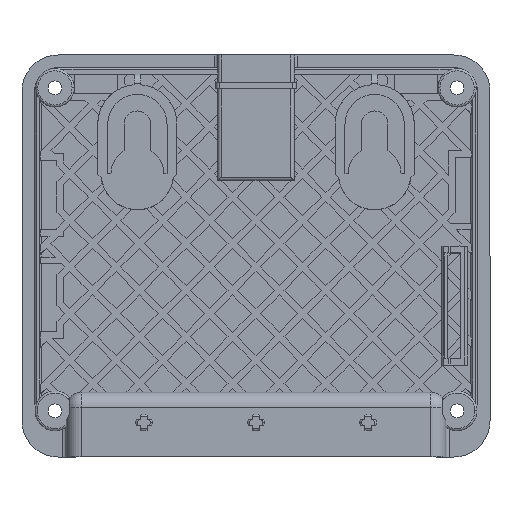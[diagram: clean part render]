
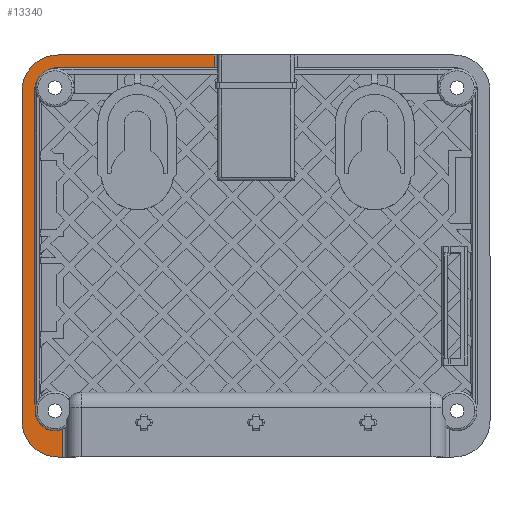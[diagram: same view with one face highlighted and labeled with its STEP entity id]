
A CAD part, top view. The second image highlights one B-rep face of the part: STEP entity #13340.
In plain terms, the highlighted planar face has unit normal (0, 0, 1).
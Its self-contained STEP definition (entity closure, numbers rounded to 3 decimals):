
#74 = ORIENTED_EDGE ( 'NONE', *, *, #11331, .T. ) ;
#1580 = VERTEX_POINT ( 'NONE', #7879 ) ;
#1633 = CARTESIAN_POINT ( 'NONE',  ( -33.328, -22.5, 1.8 ) ) ;
#1794 = CIRCLE ( 'NONE', #2919, 3. ) ;
#2195 = LINE ( 'NONE', #20244, #6318 ) ;
#2395 = VERTEX_POINT ( 'NONE', #23385 ) ;
#2514 = CARTESIAN_POINT ( 'NONE',  ( -33.5, -23.5, 1.8 ) ) ;
#2919 = AXIS2_PLACEMENT_3D ( 'NONE', #33627, #9666, #20356 ) ;
#2980 = DIRECTION ( 'NONE',  ( 1., 0., 0. ) ) ;
#3264 = EDGE_CURVE ( 'NONE', #22194, #24367, #12946, .T. ) ;
#3482 = VECTOR ( 'NONE', #11843, 1000. ) ;
#3929 = LINE ( 'NONE', #9703, #25974 ) ;
#4213 = CARTESIAN_POINT ( 'NONE',  ( -35.5, 25., 1.8 ) ) ;
#4232 = ORIENTED_EDGE ( 'NONE', *, *, #3264, .F. ) ;
#4270 = EDGE_CURVE ( 'NONE', #2395, #5430, #20334, .T. ) ;
#5152 = CIRCLE ( 'NONE', #29773, 3. ) ;
#5430 = VERTEX_POINT ( 'NONE', #1633 ) ;
#5878 = VECTOR ( 'NONE', #13252, 1000. ) ;
#5964 = ORIENTED_EDGE ( 'NONE', *, *, #26472, .T. ) ;
#6004 = ORIENTED_EDGE ( 'NONE', *, *, #16683, .F. ) ;
#6247 = EDGE_LOOP ( 'NONE', ( #23036, #19664, #30426, #11174, #18404, #12782, #74, #5964, #16556, #6004, #9650, #9436, #4232 ) ) ;
#6318 = VECTOR ( 'NONE', #23047, 1000. ) ;
#7057 = CARTESIAN_POINT ( 'NONE',  ( -33.6, 25., 1.8 ) ) ;
#7513 = CARTESIAN_POINT ( 'NONE',  ( -30., 25., 1.8 ) ) ;
#7745 = VERTEX_POINT ( 'NONE', #4213 ) ;
#7879 = CARTESIAN_POINT ( 'NONE',  ( -6.3, 30.5, 1.8 ) ) ;
#9016 = DIRECTION ( 'NONE',  ( 1., 0., 0. ) ) ;
#9436 = ORIENTED_EDGE ( 'NONE', *, *, #9475, .F. ) ;
#9475 = EDGE_CURVE ( 'NONE', #24367, #2395, #10276, .T. ) ;
#9650 = ORIENTED_EDGE ( 'NONE', *, *, #4270, .F. ) ;
#9666 = DIRECTION ( 'NONE',  ( 0., 0., 1. ) ) ;
#9703 = CARTESIAN_POINT ( 'NONE',  ( -29.3, -25.472, 1.8 ) ) ;
#9978 = VERTEX_POINT ( 'NONE', #16350 ) ;
#10276 = LINE ( 'NONE', #18680, #5878 ) ;
#11062 = CARTESIAN_POINT ( 'NONE',  ( 0., 0., 1.8 ) ) ;
#11174 = ORIENTED_EDGE ( 'NONE', *, *, #18419, .F. ) ;
#11331 = EDGE_CURVE ( 'NONE', #28718, #32796, #32658, .T. ) ;
#11843 = DIRECTION ( 'NONE',  ( 0., -1., 0. ) ) ;
#12317 = CARTESIAN_POINT ( 'NONE',  ( -35.5, -25., 1.8 ) ) ;
#12782 = ORIENTED_EDGE ( 'NONE', *, *, #31555, .F. ) ;
#12904 = AXIS2_PLACEMENT_3D ( 'NONE', #16530, #18801, #27201 ) ;
#12946 = CIRCLE ( 'NONE', #19672, 3.6 ) ;
#13114 = AXIS2_PLACEMENT_3D ( 'NONE', #29578, #21714, #2980 ) ;
#13252 = DIRECTION ( 'NONE',  ( 0., -1., 0. ) ) ;
#13340 = ADVANCED_FACE ( 'NONE', ( #14020 ), #19457, .T. ) ;
#14020 = FACE_OUTER_BOUND ( 'NONE', #6247, .T. ) ;
#14138 = CARTESIAN_POINT ( 'NONE',  ( -35.5, 30.5, 1.8 ) ) ;
#14604 = DIRECTION ( 'NONE',  ( 0., 1., 0. ) ) ;
#14949 = VERTEX_POINT ( 'NONE', #31290 ) ;
#15410 = LINE ( 'NONE', #26082, #27678 ) ;
#15586 = DIRECTION ( 'NONE',  ( 1., 0., 0. ) ) ;
#16350 = CARTESIAN_POINT ( 'NONE',  ( -6.3, 28.6, 1.8 ) ) ;
#16504 = DIRECTION ( 'NONE',  ( 0., 0., 1. ) ) ;
#16530 = CARTESIAN_POINT ( 'NONE',  ( -30., -25., 1.8 ) ) ;
#16556 = ORIENTED_EDGE ( 'NONE', *, *, #33118, .F. ) ;
#16683 = EDGE_CURVE ( 'NONE', #5430, #17179, #5152, .T. ) ;
#17179 = VERTEX_POINT ( 'NONE', #2514 ) ;
#18404 = ORIENTED_EDGE ( 'NONE', *, *, #20344, .T. ) ;
#18419 = EDGE_CURVE ( 'NONE', #7745, #14949, #20387, .T. ) ;
#18474 = AXIS2_PLACEMENT_3D ( 'NONE', #11062, #16504, #30121 ) ;
#18680 = CARTESIAN_POINT ( 'NONE',  ( -33.6, 25., 1.8 ) ) ;
#18801 = DIRECTION ( 'NONE',  ( 0., 0., -1. ) ) ;
#19457 = PLANE ( 'NONE',  #18474 ) ;
#19664 = ORIENTED_EDGE ( 'NONE', *, *, #20472, .T. ) ;
#19672 = AXIS2_PLACEMENT_3D ( 'NONE', #7513, #21157, #31813 ) ;
#20244 = CARTESIAN_POINT ( 'NONE',  ( -6.3, 0., 1.8 ) ) ;
#20334 = LINE ( 'NONE', #25750, #26240 ) ;
#20344 = EDGE_CURVE ( 'NONE', #7745, #31472, #22356, .T. ) ;
#20356 = DIRECTION ( 'NONE',  ( 1., 0., 0. ) ) ;
#20387 = CIRCLE ( 'NONE', #13114, 5.5 ) ;
#20472 = EDGE_CURVE ( 'NONE', #9978, #1580, #2195, .T. ) ;
#21081 = CARTESIAN_POINT ( 'NONE',  ( -30., 28.6, 1.8 ) ) ;
#21157 = DIRECTION ( 'NONE',  ( 0., 0., 1. ) ) ;
#21514 = LINE ( 'NONE', #27115, #26409 ) ;
#21520 = VERTEX_POINT ( 'NONE', #30414 ) ;
#21714 = DIRECTION ( 'NONE',  ( 0., 0., -1. ) ) ;
#22194 = VERTEX_POINT ( 'NONE', #21081 ) ;
#22356 = LINE ( 'NONE', #14138, #3482 ) ;
#23036 = ORIENTED_EDGE ( 'NONE', *, *, #30870, .F. ) ;
#23047 = DIRECTION ( 'NONE',  ( 0., 1., 0. ) ) ;
#23385 = CARTESIAN_POINT ( 'NONE',  ( -33.6, -22.5, 1.8 ) ) ;
#24081 = DIRECTION ( 'NONE',  ( 1., 0., 0. ) ) ;
#24125 = DIRECTION ( 'NONE',  ( -1., 0., 0. ) ) ;
#24367 = VERTEX_POINT ( 'NONE', #7057 ) ;
#25750 = CARTESIAN_POINT ( 'NONE',  ( -32.6, -22.5, 1.8 ) ) ;
#25974 = VECTOR ( 'NONE', #14604, 1000. ) ;
#26082 = CARTESIAN_POINT ( 'NONE',  ( 35.5, 30.5, 1.8 ) ) ;
#26240 = VECTOR ( 'NONE', #15586, 1000. ) ;
#26327 = CIRCLE ( 'NONE', #12904, 5.5 ) ;
#26409 = VECTOR ( 'NONE', #24125, 1000. ) ;
#26472 = EDGE_CURVE ( 'NONE', #32796, #21520, #3929, .T. ) ;
#27064 = VECTOR ( 'NONE', #9016, 1000. ) ;
#27115 = CARTESIAN_POINT ( 'NONE',  ( 30., 28.6, 1.8 ) ) ;
#27201 = DIRECTION ( 'NONE',  ( 1., 0., 0. ) ) ;
#27323 = EDGE_CURVE ( 'NONE', #1580, #14949, #15410, .T. ) ;
#27678 = VECTOR ( 'NONE', #28357, 1000. ) ;
#28357 = DIRECTION ( 'NONE',  ( -1., 0., 0. ) ) ;
#28718 = VERTEX_POINT ( 'NONE', #34627 ) ;
#29469 = CARTESIAN_POINT ( 'NONE',  ( -29.3, -30.5, 1.8 ) ) ;
#29578 = CARTESIAN_POINT ( 'NONE',  ( -30., 25., 1.8 ) ) ;
#29773 = AXIS2_PLACEMENT_3D ( 'NONE', #31944, #32303, #24081 ) ;
#30121 = DIRECTION ( 'NONE',  ( 1., 0., 0. ) ) ;
#30414 = CARTESIAN_POINT ( 'NONE',  ( -29.3, -26.25, 1.8 ) ) ;
#30426 = ORIENTED_EDGE ( 'NONE', *, *, #27323, .T. ) ;
#30870 = EDGE_CURVE ( 'NONE', #9978, #22194, #21514, .T. ) ;
#31290 = CARTESIAN_POINT ( 'NONE',  ( -30., 30.5, 1.8 ) ) ;
#31472 = VERTEX_POINT ( 'NONE', #12317 ) ;
#31555 = EDGE_CURVE ( 'NONE', #28718, #31472, #26327, .T. ) ;
#31813 = DIRECTION ( 'NONE',  ( 1., 0., 0. ) ) ;
#31944 = CARTESIAN_POINT ( 'NONE',  ( -30.5, -23.5, 1.8 ) ) ;
#32303 = DIRECTION ( 'NONE',  ( 0., 0., 1. ) ) ;
#32658 = LINE ( 'NONE', #32975, #27064 ) ;
#32796 = VERTEX_POINT ( 'NONE', #29469 ) ;
#32975 = CARTESIAN_POINT ( 'NONE',  ( 35.5, -30.5, 1.8 ) ) ;
#33118 = EDGE_CURVE ( 'NONE', #17179, #21520, #1794, .T. ) ;
#33627 = CARTESIAN_POINT ( 'NONE',  ( -30.5, -23.5, 1.8 ) ) ;
#34627 = CARTESIAN_POINT ( 'NONE',  ( -30., -30.5, 1.8 ) ) ;
